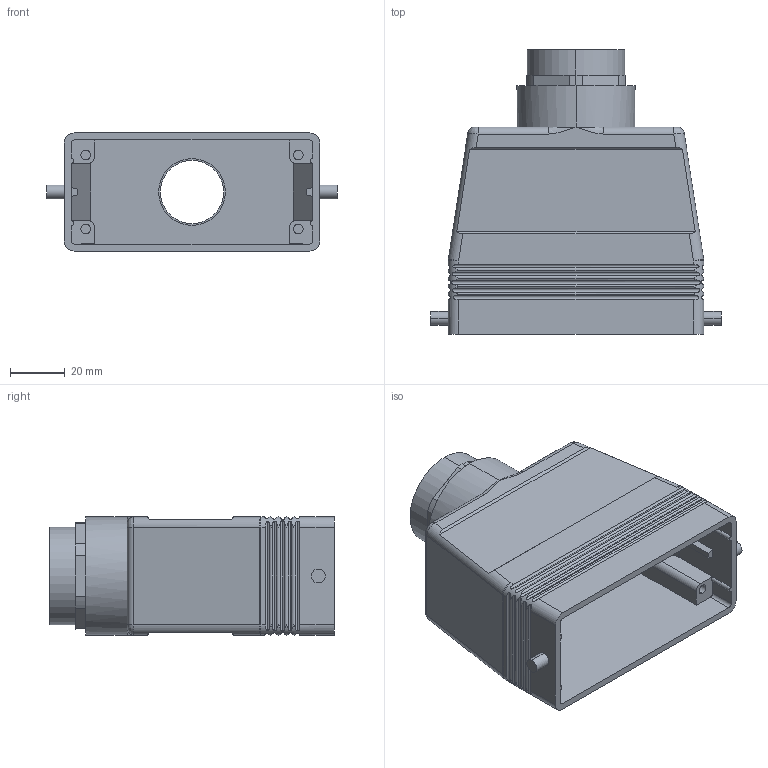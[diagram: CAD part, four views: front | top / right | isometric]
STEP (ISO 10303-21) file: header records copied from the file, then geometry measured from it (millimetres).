
FILE_DESCRIPTION (( 'STEP AP214' ), '1' );
FILE_NAME ('MAV-16L32.STEP', '2010-03-16T19:38:32', ( '' ), ( '' ), 'SwSTEP 2.0', 'SolidWorks 2010', '' );
FILE_SCHEMA (( 'AUTOMOTIVE_DESIGN' ));
Length unit declared in the file: millimetre
Products named in the file (1): MAV-16L32
Bounding box: 106.2 x 104.17 x 43.18 mm (x, y, z)
Volume: 80470.4 mm3; surface area: 55942 mm2
Topology: 3 solids, 3 shells, 242 faces, 657 edges, 428 vertices
Faces by surface type: cylinder 142, plane 76, bspline 14, torus 6, sphere 4
Entity records: 15738 total; most frequent: CARTESIAN_POINT 7341, ORIENTED_EDGE 1306, DIRECTION 1042, EDGE_CURVE 653, VERTEX_POINT 428, AXIS2_PLACEMENT_3D 373, VECTOR 296, LINE 296
